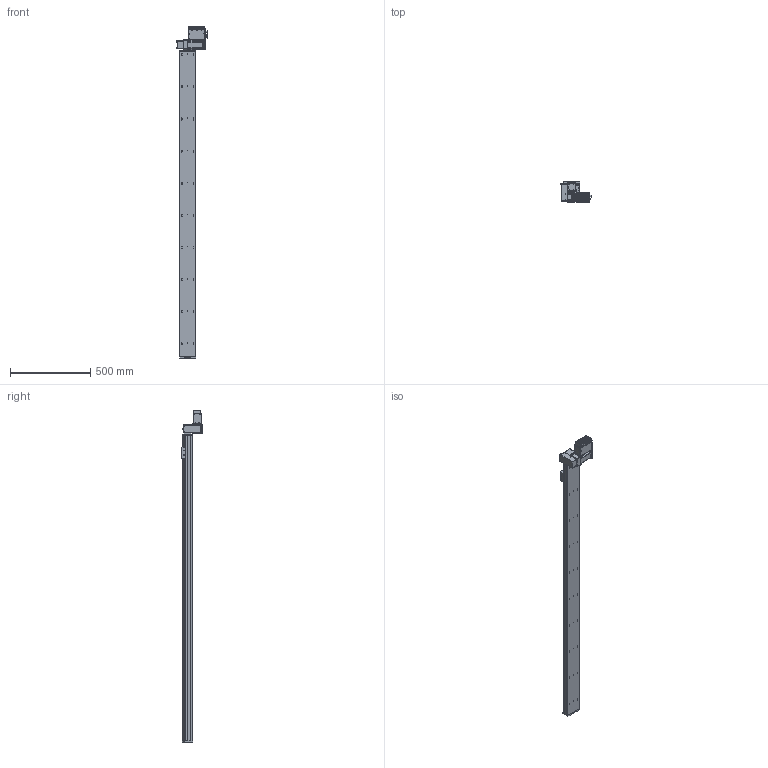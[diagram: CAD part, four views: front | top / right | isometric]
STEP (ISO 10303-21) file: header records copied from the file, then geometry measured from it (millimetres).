
FILE_DESCRIPTION (( 'STEP AP203' ), '1' );
FILE_NAME ('S10 TBN RH S2000.STEP', '2012-06-14T08:56:35', ( 'Conseil Régional Haute-Normandie' ), ( 'Conseil Régional Haute-Normandie' ), 'SwSTEP 2.0', 'SolidWorks 2010', '' );
FILE_SCHEMA (( 'CONFIG_CONTROL_DESIGN' ));
Length unit declared in the file: millimetre
Products named in the file (30): S10 TBN RH S2000; cache t皻e_Default; cache t皻e axe_Default; plaque de bout s10_Default; BU41 Carte Alimentation P05_3; Colonnette_3; Connecteur rond D10 3cts_5; Connecteur rond D12 4cts_5; Sub D 9cts 90_X2_00B_X0__3; Cvis M5 L30_Default; Vis TF 3 torkx_1_1; vis M5 L12_Default; axe 1900; embout; palette tbn; Plaque racord_Default; Copie de renvoi LH_Default^S10 TBN RH S2000; Assem1_7; T_X2_00F4_X0_le contre le moteur_5; BU45 Carte d''axe A11_5; Moteur 60BLDC90A_3; Couvercle_3; T_X2_00F4_X0_le fond_3; Radiateur profil_X2_00E9_X0_ 100x25_3; Colonnette ronde_3; T_X2_00F4_X0_le Arri_X2_00E8_X0_re_5; T_X2_00F4_X0_le lat_X2_00E9_X0_rale_5; Vis M5 L16-2_Default_1; vis M5 L5_Default; Vis TF 3 torkx
Assembly tree (69 placements, depth 3):
  S10 TBN RH S2000
    vis M5 L5_Default  x4
    Vis TF 3 torkx  x7
    Vis M5 L16-2_Default_1  x4
    axe 1900
    vis M5 L12_Default  x4
    Plaque racord_Default
    Cvis M5 L30_Default  x2
    palette tbn
    cache t皻e_Default  x2
    plaque de bout s10_Default
    Copie de renvoi LH_Default^S10 TBN RH S2000
    cache t皻e axe_Default
    embout
    Assem1_7
      Colonnette_3  x2
      BU45 Carte d''axe A11_5
      Vis TF 3 torkx_1_1  x21
      T_X2_00F4_X0_le contre le moteur_5
      T_X2_00F4_X0_le fond_3
      Connecteur rond D12 4cts_5
      T_X2_00F4_X0_le Arri_X2_00E8_X0_re_5
      Colonnette ronde_3
      T_X2_00F4_X0_le lat_X2_00E9_X0_rale_5  x2
      Connecteur rond D10 3cts_5  x2
      Sub D 9cts 90_X2_00B_X0__3
      Radiateur profil_X2_00E9_X0_ 100x25_3
      Moteur 60BLDC90A_3
      BU41 Carte Alimentation P05_3
      Couvercle_3
Bounding box: 189.8 x 124.75 x 2066.5 mm (x, y, z)
Volume: 10661886.5 mm3; surface area: 1203830.2 mm2
Topology: 68 solids, 68 shells, 2528 faces, 6274 edges, 4058 vertices
Faces by surface type: plane 1214, cylinder 1083, cone 188, bspline 40, torus 3
Entity records: 49704 total; most frequent: CARTESIAN_POINT 8905, DIRECTION 8023, ORIENTED_EDGE 7268, EDGE_CURVE 3634, AXIS2_PLACEMENT_3D 2987, VERTEX_POINT 2374, LINE 2049, VECTOR 2049
